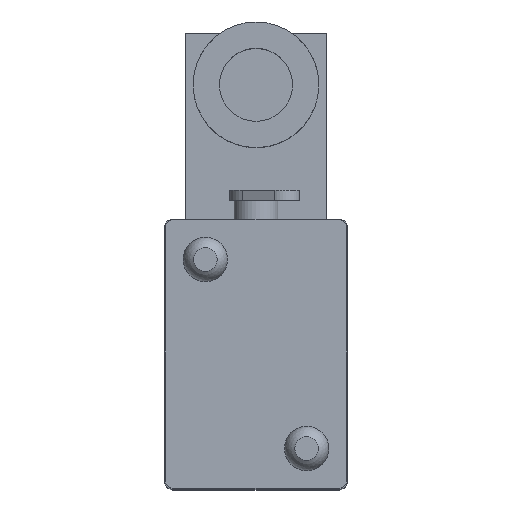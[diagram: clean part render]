
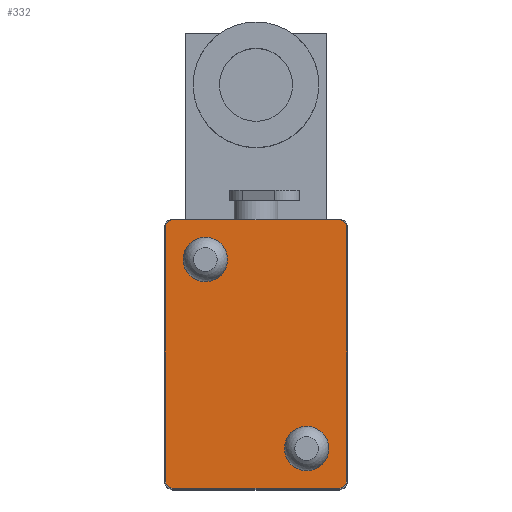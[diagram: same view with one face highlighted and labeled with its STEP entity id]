
A CAD part, top view. The second image highlights one B-rep face of the part: STEP entity #332.
In plain terms, the highlighted planar face has unit normal (0, 0, 1).
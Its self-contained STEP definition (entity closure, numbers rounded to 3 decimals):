
#332 = ADVANCED_FACE( '', ( #711, #712, #713 ), #714, .T. );
#711 = FACE_BOUND( '', #1084, .T. );
#712 = FACE_BOUND( '', #1085, .T. );
#713 = FACE_OUTER_BOUND( '', #1086, .T. );
#714 = PLANE( '', #1087 );
#1084 = EDGE_LOOP( '', ( #1911 ) );
#1085 = EDGE_LOOP( '', ( #1912 ) );
#1086 = EDGE_LOOP( '', ( #1913, #1914, #1915, #1916, #1917, #1918, #1919, #1920 ) );
#1087 = AXIS2_PLACEMENT_3D( '', #1921, #1922, #1923 );
#1911 = ORIENTED_EDGE( '', *, *, #2177, .T. );
#1912 = ORIENTED_EDGE( '', *, *, #1964, .T. );
#1913 = ORIENTED_EDGE( '', *, *, #2161, .T. );
#1914 = ORIENTED_EDGE( '', *, *, #2203, .T. );
#1915 = ORIENTED_EDGE( '', *, *, #2181, .T. );
#1916 = ORIENTED_EDGE( '', *, *, #2246, .T. );
#1917 = ORIENTED_EDGE( '', *, *, #2156, .T. );
#1918 = ORIENTED_EDGE( '', *, *, #2240, .T. );
#1919 = ORIENTED_EDGE( '', *, *, #2164, .T. );
#1920 = ORIENTED_EDGE( '', *, *, #2042, .T. );
#1921 = CARTESIAN_POINT( '', ( -12.2, 18.7, 11.6 ) );
#1922 = DIRECTION( '', ( 0., 0., 1. ) );
#1923 = DIRECTION( '', ( 1., 0., 0. ) );
#1964 = EDGE_CURVE( '', #2301, #2301, #2302, .T. );
#2042 = EDGE_CURVE( '', #2432, #2430, #2433, .T. );
#2156 = EDGE_CURVE( '', #2607, #2605, #2608, .T. );
#2161 = EDGE_CURVE( '', #2430, #2613, #2615, .T. );
#2164 = EDGE_CURVE( '', #2619, #2432, #2620, .T. );
#2177 = EDGE_CURVE( '', #2635, #2635, #2636, .T. );
#2181 = EDGE_CURVE( '', #2643, #2641, #2644, .T. );
#2203 = EDGE_CURVE( '', #2613, #2643, #2670, .T. );
#2240 = EDGE_CURVE( '', #2605, #2619, #2712, .T. );
#2246 = EDGE_CURVE( '', #2641, #2607, #2718, .T. );
#2301 = VERTEX_POINT( '', #2785 );
#2302 = CIRCLE( '', #2786, 3.3 );
#2430 = VERTEX_POINT( '', #2946 );
#2432 = VERTEX_POINT( '', #2949 );
#2433 = LINE( '', #2950, #2951 );
#2605 = VERTEX_POINT( '', #3193 );
#2607 = VERTEX_POINT( '', #3196 );
#2608 = CIRCLE( '', #3197, 1.2 );
#2613 = VERTEX_POINT( '', #3203 );
#2615 = CIRCLE( '', #3206, 1.2 );
#2619 = VERTEX_POINT( '', #3210 );
#2620 = CIRCLE( '', #3211, 1.2 );
#2635 = VERTEX_POINT( '', #3228 );
#2636 = CIRCLE( '', #3229, 3.3 );
#2641 = VERTEX_POINT( '', #3234 );
#2643 = VERTEX_POINT( '', #3237 );
#2644 = CIRCLE( '', #3238, 1.2 );
#2670 = LINE( '', #3269, #3270 );
#2712 = LINE( '', #3324, #3325 );
#2718 = LINE( '', #3331, #3332 );
#2785 = CARTESIAN_POINT( '', ( 4.2, -14., 11.6 ) );
#2786 = AXIS2_PLACEMENT_3D( '', #3379, #3380, #3381 );
#2946 = CARTESIAN_POINT( '', ( -12.2, 19.9, 11.6 ) );
#2949 = CARTESIAN_POINT( '', ( 12.2, 19.9, 11.6 ) );
#2950 = CARTESIAN_POINT( '', ( 12.2, 19.9, 11.6 ) );
#2951 = VECTOR( '', #3490, 1000. );
#3193 = CARTESIAN_POINT( '', ( 13.4, -18.7, 11.6 ) );
#3196 = CARTESIAN_POINT( '', ( 12.2, -19.9, 11.6 ) );
#3197 = AXIS2_PLACEMENT_3D( '', #3631, #3632, #3633 );
#3203 = CARTESIAN_POINT( '', ( -13.4, 18.7, 11.6 ) );
#3206 = AXIS2_PLACEMENT_3D( '', #3639, #3640, #3641 );
#3210 = CARTESIAN_POINT( '', ( 13.4, 18.7, 11.6 ) );
#3211 = AXIS2_PLACEMENT_3D( '', #3645, #3646, #3647 );
#3228 = CARTESIAN_POINT( '', ( -10.8, 14., 11.6 ) );
#3229 = AXIS2_PLACEMENT_3D( '', #3662, #3663, #3664 );
#3234 = CARTESIAN_POINT( '', ( -12.2, -19.9, 11.6 ) );
#3237 = CARTESIAN_POINT( '', ( -13.4, -18.7, 11.6 ) );
#3238 = AXIS2_PLACEMENT_3D( '', #3669, #3670, #3671 );
#3269 = CARTESIAN_POINT( '', ( -13.4, 18.7, 11.6 ) );
#3270 = VECTOR( '', #3689, 1000. );
#3324 = CARTESIAN_POINT( '', ( 13.4, -18.7, 11.6 ) );
#3325 = VECTOR( '', #3723, 1000. );
#3331 = CARTESIAN_POINT( '', ( -12.2, -19.9, 11.6 ) );
#3332 = VECTOR( '', #3724, 1000. );
#3379 = CARTESIAN_POINT( '', ( 7.5, -14., 11.6 ) );
#3380 = DIRECTION( '', ( 0., 0., -1. ) );
#3381 = DIRECTION( '', ( -1., 0., 0. ) );
#3490 = DIRECTION( '', ( -1., 0., 0. ) );
#3631 = CARTESIAN_POINT( '', ( 12.2, -18.7, 11.6 ) );
#3632 = DIRECTION( '', ( 0., 0., 1. ) );
#3633 = DIRECTION( '', ( 1., 0., 0. ) );
#3639 = CARTESIAN_POINT( '', ( -12.2, 18.7, 11.6 ) );
#3640 = DIRECTION( '', ( 0., 0., 1. ) );
#3641 = DIRECTION( '', ( 1., 0., 0. ) );
#3645 = CARTESIAN_POINT( '', ( 12.2, 18.7, 11.6 ) );
#3646 = DIRECTION( '', ( 0., 0., 1. ) );
#3647 = DIRECTION( '', ( 1., 0., 0. ) );
#3662 = CARTESIAN_POINT( '', ( -7.5, 14., 11.6 ) );
#3663 = DIRECTION( '', ( 0., 0., -1. ) );
#3664 = DIRECTION( '', ( -1., 0., 0. ) );
#3669 = CARTESIAN_POINT( '', ( -12.2, -18.7, 11.6 ) );
#3670 = DIRECTION( '', ( 0., 0., 1. ) );
#3671 = DIRECTION( '', ( 1., 0., 0. ) );
#3689 = DIRECTION( '', ( 0., -1., 0. ) );
#3723 = DIRECTION( '', ( 0., 1., 0. ) );
#3724 = DIRECTION( '', ( 1., 0., 0. ) );
